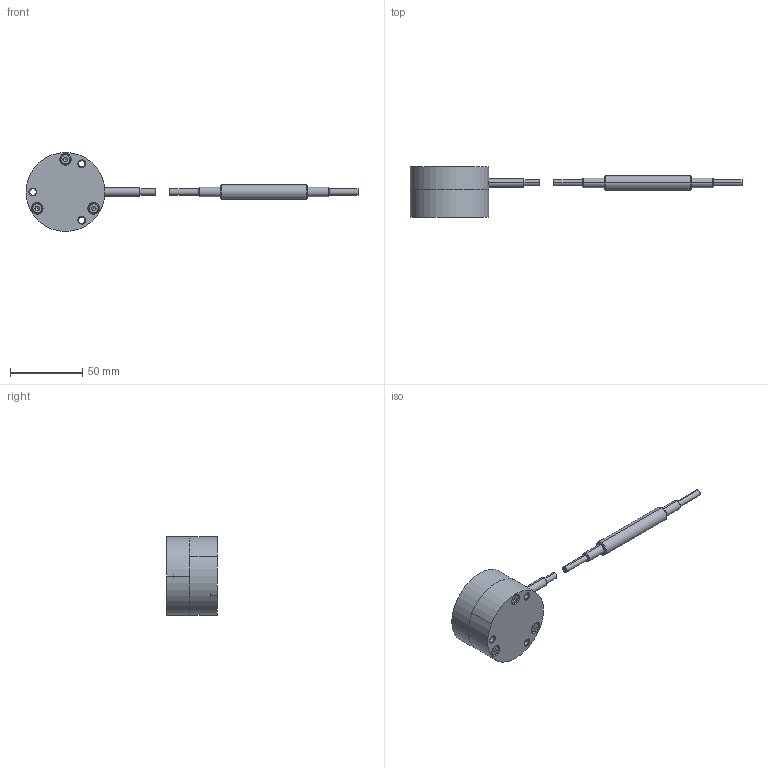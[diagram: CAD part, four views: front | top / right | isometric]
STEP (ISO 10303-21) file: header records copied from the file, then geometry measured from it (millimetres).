
FILE_DESCRIPTION(('STEP AP203'),'1');
FILE_NAME('C:/TPO v2/SharedFS/Outgoing/burster_8524-6002-v400_chci2ml9x2x1xtzhvdcbbt8oj.stp','2013-08-28T15:44:24',('TraceParts'),('TraceParts S.A.'),'XStep 1.0',' ',' ');
FILE_SCHEMA(('CONFIG_CONTROL_DESIGN'));
Length unit declared in the file: millimetre
Products named in the file (3): 1; 2; 3
Bounding box: 229.2 x 35 x 54.5 mm (x, y, z)
Volume: 80332.5 mm3; surface area: 22835 mm2
Topology: 3 solids, 3 shells, 202 faces, 483 edges, 302 vertices
Faces by surface type: cylinder 96, plane 52, cone 42, torus 10, bspline 2
Entity records: 6112 total; most frequent: CARTESIAN_POINT 1237, DIRECTION 1069, ORIENTED_EDGE 942, EDGE_CURVE 471, AXIS2_PLACEMENT_3D 447, VERTEX_POINT 302, EDGE_LOOP 243, CIRCLE 220
